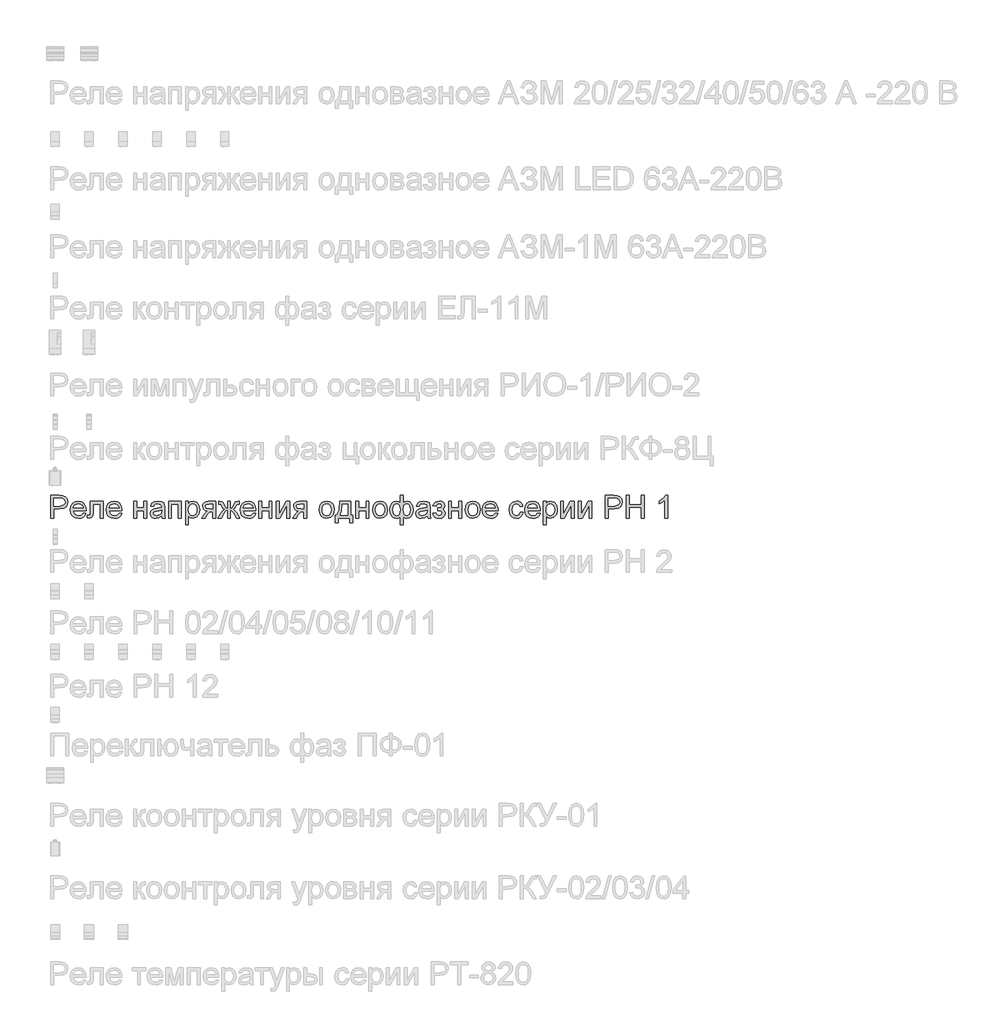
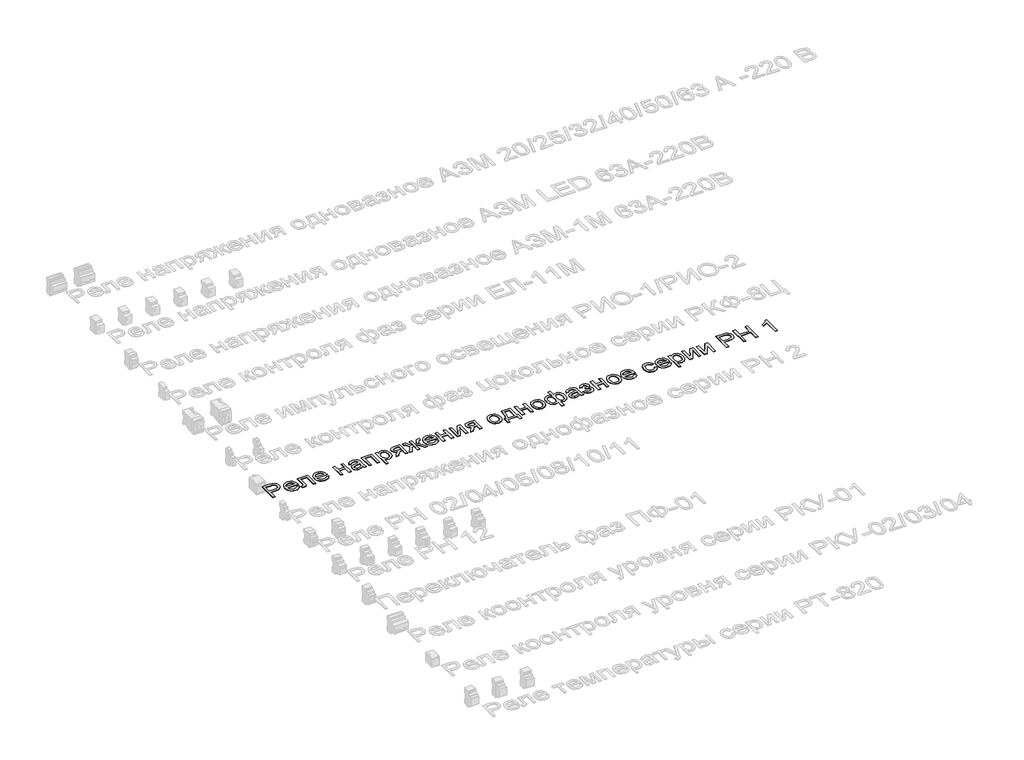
# One storey, part 10 of 34: 1 proxy.
"""IFC4 building model written with IfcOpenShell, lengths in millimetres."""

from ifc_helpers import new_model, si_unit, frame, origin, place, context, project, spatial, polyline, outline, extrude, element, save

model = new_model("IFC4")

# Units and contexts
model_context = context("Model", 3, world=origin())
ifc_project = project(units=[si_unit("LENGTHUNIT", "METRE", prefix="MILLI")], contexts=[model_context])

# Site, building, storey
site = spatial("IfcSite", under=ifc_project)
building = spatial("IfcBuilding", under=site)
storey = spatial("IfcBuildingStorey", under=building, Name="Этаж 01", Elevation=0.0)

# Proxy
placement = place(None, origin())
element("IfcBuildingElementProxy", 1, Name="Надпись на модели 1", ObjectType="Надпись на модели 1", at=placement, inside=storey, context=model_context, shape_type="SweptSolid", body=[
    extrude(outline(polyline([(-19039.0125911, 10446.235284), (-19039.0125911, 10546.6915941), (-19001.7829332, 10546.6915941), (-18986.7733478, 10545.735101), (-18974.5719283, 10541.0384742), (-18966.6624654, 10531.3263895), (-18963.6703585, 10517.6289165), (-18965.6906438, 10505.7892476), (-18971.7514996, 10495.9238788), (-18983.0853308, 10489.2652147), (-19000.9245418, 10487.04566), (-19026.4555523, 10487.04566), (-19026.4555523, 10446.235284), (-19039.0125911, 10446.235284)]), holes=[polyline([(-19026.4555523, 10499.6026988), (-19000.1887779, 10499.6026988), (-18981.6965762, 10504.2134864), (-18977.594692, 10509.7623732), (-18976.2273972, 10517.1874581), (-18979.4524961, 10527.5862559), (-18987.9260447, 10533.2761641), (-19000.4830834, 10534.1345554), (-19026.4555523, 10534.1345554), (-19026.4555523, 10499.6026988)])]), frame((0.0, 0.0, 40.0), z_axis=(0.0, 0.0, 1.0), x_axis=(1.0, 0.0, 0.0)), (0.0, 0.0, 1.0), 2.0),
    extrude(outline(polyline([(-18896.3234279, 10468.2101018), (-18884.0116438, 10466.640472), (-18888.4476875, 10457.3637143), (-18895.5263502, 10450.4291387), (-18905.0882164, 10446.1065253), (-18916.9738705, 10444.6656541), (-18931.7075445, 10447.1519233), (-18943.0444413, 10454.6107308), (-18950.2733225, 10466.5576985), (-18952.6829495, 10482.5084487), (-18950.248797, 10498.9956935), (-18942.9463394, 10511.3258717), (-18931.7627268, 10519.0146054), (-18917.6851091, 10521.5775166), (-18904.0458841, 10519.0207367), (-18893.14738, 10511.3503971), (-18886.0012722, 10499.0447444), (-18883.6192363, 10482.5820251), (-18883.6928127, 10479.1975108), (-18940.1259108, 10479.1975108), (-18937.9523413, 10469.7981258), (-18932.9031609, 10462.8880756), (-18925.6160317, 10458.6390386), (-18916.7286159, 10457.2226929), (-18904.4168318, 10459.8469178), (-18896.3234279, 10468.2101018)]), holes=[polyline([(-18940.1259108, 10491.7545495), (-18896.1762751, 10491.7545495), (-18901.2039957, 10503.1343659), (-18908.5248474, 10507.5489499), (-18917.73416, 10509.0204778), (-18933.1974665, 10504.323851), (-18938.0627059, 10498.8332123), (-18940.1259108, 10491.7545495)])]), frame((0.0, 0.0, 40.0), z_axis=(0.0, 0.0, 1.0), x_axis=(1.0, 0.0, 0.0)), (0.0, 0.0, 1.0), 2.0),
    extrude(outline(polyline([(-18864.7836782, 10520.0078868), (-18808.2770037, 10520.0078868), (-18808.2770037, 10446.3088604), (-18820.8340425, 10446.3088604), (-18820.8340425, 10507.450848), (-18852.2266394, 10507.450848), (-18852.2266394, 10472.2568038), (-18853.072768, 10456.0209451), (-18857.7203439, 10449.1660772), (-18868.7077528, 10446.235284), (-18878.9103468, 10446.8729461), (-18878.9103468, 10458.7923228), (-18873.294015, 10458.7923228), (-18867.6163695, 10459.564875), (-18865.3477639, 10462.0174216), (-18864.7836782, 10472.9680423), (-18864.7836782, 10520.0078868)])), frame((0.0, 0.0, 40.0), z_axis=(0.0, 0.0, 1.0), x_axis=(1.0, 0.0, 0.0)), (0.0, 0.0, 1.0), 2.0),
    extrude(outline(polyline([(-18737.7908134, 10468.2101018), (-18725.4790293, 10466.640472), (-18729.915073, 10457.3637143), (-18736.9937358, 10450.4291387), (-18746.555602, 10446.1065253), (-18758.4412561, 10444.6656541), (-18773.17493, 10447.1519233), (-18784.5118268, 10454.6107308), (-18791.740708, 10466.5576985), (-18794.1503351, 10482.5084487), (-18791.7161826, 10498.9956935), (-18784.4137249, 10511.3258717), (-18773.2301123, 10519.0146054), (-18759.1524946, 10521.5775166), (-18745.5132696, 10519.0207367), (-18734.6147655, 10511.3503971), (-18727.4686578, 10499.0447444), (-18725.0866219, 10482.5820251), (-18725.1601983, 10479.1975108), (-18781.5932963, 10479.1975108), (-18779.4197269, 10469.7981258), (-18774.3705465, 10462.8880756), (-18767.0834173, 10458.6390386), (-18758.1960014, 10457.2226929), (-18745.8842173, 10459.8469178), (-18737.7908134, 10468.2101018)]), holes=[polyline([(-18781.5932963, 10491.7545495), (-18737.6436606, 10491.7545495), (-18742.6713812, 10503.1343659), (-18749.9922329, 10507.5489499), (-18759.2015455, 10509.0204778), (-18774.6648521, 10504.323851), (-18779.5300915, 10498.8332123), (-18781.5932963, 10491.7545495)])]), frame((0.0, 0.0, 40.0), z_axis=(0.0, 0.0, 1.0), x_axis=(1.0, 0.0, 0.0)), (0.0, 0.0, 1.0), 2.0),
    extrude(outline(polyline([(-18673.2888369, 10520.0078868), (-18660.7317982, 10520.0078868), (-18660.7317982, 10491.7545495), (-18627.7695714, 10491.7545495), (-18627.7695714, 10520.0078868), (-18615.2125326, 10520.0078868), (-18615.2125326, 10446.235284), (-18627.7695714, 10446.235284), (-18627.7695714, 10479.1975108), (-18660.7317982, 10479.1975108), (-18660.7317982, 10446.235284), (-18673.2888369, 10446.235284), (-18673.2888369, 10520.0078868)])), frame((0.0, 0.0, 40.0), z_axis=(0.0, 0.0, 1.0), x_axis=(1.0, 0.0, 0.0)), (0.0, 0.0, 1.0), 2.0),
    extrude(outline(polyline([(-18549.2880791, 10455.6530631), (-18561.4649731, 10447.1427262), (-18574.9171914, 10444.6656541), (-18585.4110253, 10446.1555762), (-18593.1518757, 10450.6253425), (-18597.9251445, 10457.4127653), (-18599.5162342, 10465.8556571), (-18597.1127385, 10475.7884709), (-18590.7974309, 10482.998958), (-18582.0050512, 10487.1192364), (-18571.1402696, 10489.0076973), (-18549.3616555, 10493.3241794), (-18549.2880791, 10496.1200825), (-18552.7461699, 10505.3907088), (-18566.6275838, 10509.0204778), (-18579.3317754, 10506.6047194), (-18585.3895656, 10498.0330689), (-18597.9466043, 10499.6026988), (-18592.5142135, 10511.8654319), (-18581.5758555, 10519.0513936), (-18565.008903, 10521.5775166), (-18549.7908512, 10519.3456992), (-18541.1946752, 10513.7416301), (-18537.344177, 10505.2190306), (-18536.7310403, 10494.2316216), (-18536.7310403, 10478.6088996), (-18536.0933782, 10456.7934973), (-18533.5917806, 10446.235284), (-18546.1488194, 10446.235284), (-18549.2880791, 10455.6530631)]), holes=[polyline([(-18549.2880791, 10480.7671406), (-18569.5461143, 10476.9166424), (-18580.3495822, 10474.8810287), (-18585.2424128, 10471.5700907), (-18586.9591954, 10466.7385739), (-18583.2190618, 10459.9450197), (-18572.2439156, 10457.2226929), (-18559.539724, 10460.2270625), (-18551.3482183, 10467.4988633), (-18549.3616555, 10477.210948), (-18549.2880791, 10480.7671406)])]), frame((0.0, 0.0, 40.0), z_axis=(0.0, 0.0, 1.0), x_axis=(1.0, 0.0, 0.0)), (0.0, 0.0, 1.0), 2.0),
    extrude(outline(polyline([(-18519.465112, 10520.0078868), (-18462.9584376, 10520.0078868), (-18462.9584376, 10446.235284), (-18475.5154763, 10446.235284), (-18475.5154763, 10507.450848), (-18506.9080733, 10507.450848), (-18506.9080733, 10446.235284), (-18519.465112, 10446.235284), (-18519.465112, 10520.0078868)])), frame((0.0, 0.0, 40.0), z_axis=(0.0, 0.0, 1.0), x_axis=(1.0, 0.0, 0.0)), (0.0, 0.0, 1.0), 2.0),
    extrude(outline(polyline([(-18444.1228794, 10417.9819468), (-18444.1228794, 10520.0078868), (-18431.5658406, 10520.0078868), (-18431.5658406, 10507.6961027), (-18422.8838256, 10518.1071631), (-18411.1606526, 10521.5775166), (-18395.243625, 10516.7214743), (-18384.8448273, 10503.036264), (-18381.3376856, 10483.6856711), (-18385.2985484, 10463.3417968), (-18396.8009921, 10449.4849083), (-18412.6812316, 10444.6656541), (-18423.6073268, 10447.890753), (-18431.5658406, 10456.0454705), (-18431.5658406, 10417.9819468), (-18444.1228794, 10417.9819468)]), holes=[polyline([(-18431.5658406, 10482.5329742), (-18430.2077429, 10471.2757851), (-18426.1334498, 10463.4031104), (-18420.1216449, 10458.7677973), (-18412.9510117, 10457.2226929), (-18405.6638825, 10458.8229796), (-18399.4987934, 10463.6238396), (-18395.2957416, 10471.7846886), (-18393.8947243, 10483.4649419), (-18395.2620191, 10494.6608173), (-18399.3639033, 10502.6438566), (-18405.3665112, 10507.4263225), (-18412.4359769, 10509.0204778), (-18419.5330337, 10507.325155), (-18425.7655679, 10502.2391864), (-18430.1157724, 10493.9219876), (-18431.5658406, 10482.5329742)])]), frame((0.0, 0.0, 40.0), z_axis=(0.0, 0.0, 1.0), x_axis=(1.0, 0.0, 0.0)), (0.0, 0.0, 1.0), 2.0),
    extrude(outline(polyline([(-18310.7043425, 10520.0078868), (-18310.7043425, 10446.235284), (-18323.2613813, 10446.235284), (-18323.2613813, 10474.4886212), (-18330.1039864, 10474.4886212), (-18339.4236636, 10472.8944659), (-18348.1792551, 10462.1768371), (-18358.1856453, 10446.235284), (-18372.7047214, 10446.235284), (-18360.0986317, 10466.3952173), (-18349.4055284, 10476.843066), (-18357.9894416, 10479.4734223), (-18364.0227063, 10484.470486), (-18368.7806468, 10498.6952565), (-18367.1558347, 10507.2914325), (-18362.2813982, 10514.0972494), (-18354.3290158, 10518.5302274), (-18343.4703655, 10520.0078868), (-18310.7043425, 10520.0078868)]), holes=[polyline([(-18323.2613813, 10507.450848), (-18339.816071, 10507.450848), (-18353.2192384, 10504.5445802), (-18356.223608, 10497.7387633), (-18351.7967614, 10489.6330967), (-18336.1127256, 10487.04566), (-18323.2613813, 10487.04566), (-18323.2613813, 10507.450848)])]), frame((0.0, 0.0, 40.0), z_axis=(0.0, 0.0, 1.0), x_axis=(1.0, 0.0, 0.0)), (0.0, 0.0, 1.0), 2.0),
    extrude(outline(polyline([(-18246.3495188, 10520.0078868), (-18246.3495188, 10488.6152898), (-18239.0286671, 10491.2027265), (-18232.1002229, 10504.6304194), (-18223.8351407, 10517.5062892), (-18212.0874423, 10520.0078868), (-18207.1087727, 10520.0078868), (-18207.1087727, 10507.3772716), (-18210.5668634, 10507.450848), (-18217.0415865, 10506.1509983), (-18221.5297469, 10498.0085434), (-18226.7414085, 10489.0812737), (-18234.1848875, 10484.5440624), (-18225.9749876, 10479.6573633), (-18217.9735542, 10469.3627988), (-18203.969513, 10446.235284), (-18218.3659617, 10446.235284), (-18232.1492738, 10469.0439677), (-18239.1758199, 10478.5230604), (-18246.3495188, 10480.7671406), (-18246.3495188, 10446.235284), (-18258.9065576, 10446.235284), (-18258.9065576, 10480.7671406), (-18266.055731, 10478.5721114), (-18273.1313281, 10469.0930186), (-18286.9146401, 10446.235284), (-18301.2865634, 10446.235284), (-18287.3315731, 10469.3627988), (-18279.268826, 10479.6573633), (-18271.0221379, 10484.5440624), (-18278.9193381, 10489.5472576), (-18285.6883668, 10502.4231274), (-18288.9993048, 10506.6660331), (-18294.4194328, 10507.5244244), (-18298.1473037, 10507.450848), (-18298.1473037, 10520.0078868), (-18296.2588428, 10520.0078868), (-18285.2469084, 10519.2230718), (-18279.5324748, 10515.8876084), (-18273.1313281, 10504.6304194), (-18266.2764602, 10491.2885657), (-18258.9065576, 10488.6152898), (-18258.9065576, 10520.0078868), (-18246.3495188, 10520.0078868)])), frame((0.0, 0.0, 40.0), z_axis=(0.0, 0.0, 1.0), x_axis=(1.0, 0.0, 0.0)), (0.0, 0.0, 1.0), 2.0),
    extrude(outline(polyline([(-18146.0403615, 10468.2101018), (-18133.7285773, 10466.640472), (-18138.1646211, 10457.3637143), (-18145.2432838, 10450.4291387), (-18154.80515, 10446.1065253), (-18166.6908041, 10444.6656541), (-18181.424478, 10447.1519233), (-18192.7613748, 10454.6107308), (-18199.990256, 10466.5576985), (-18202.3998831, 10482.5084487), (-18199.9657306, 10498.9956935), (-18192.663273, 10511.3258717), (-18181.4796603, 10519.0146054), (-18167.4020426, 10521.5775166), (-18153.7628177, 10519.0207367), (-18142.8643136, 10511.3503971), (-18135.7182058, 10499.0447444), (-18133.3361699, 10482.5820251), (-18133.4097463, 10479.1975108), (-18189.8428443, 10479.1975108), (-18187.6692749, 10469.7981258), (-18182.6200945, 10462.8880756), (-18175.3329653, 10458.6390386), (-18166.4455495, 10457.2226929), (-18154.1337653, 10459.8469178), (-18146.0403615, 10468.2101018)]), holes=[polyline([(-18189.8428443, 10491.7545495), (-18145.8932087, 10491.7545495), (-18150.9209293, 10503.1343659), (-18158.241781, 10507.5489499), (-18167.4510936, 10509.0204778), (-18182.9144001, 10504.323851), (-18187.7796395, 10498.8332123), (-18189.8428443, 10491.7545495)])]), frame((0.0, 0.0, 40.0), z_axis=(0.0, 0.0, 1.0), x_axis=(1.0, 0.0, 0.0)), (0.0, 0.0, 1.0), 2.0),
    extrude(outline(polyline([(-18120.7791311, 10520.0078868), (-18108.2220923, 10520.0078868), (-18108.2220923, 10491.7545495), (-18075.2598656, 10491.7545495), (-18075.2598656, 10520.0078868), (-18062.7028268, 10520.0078868), (-18062.7028268, 10446.235284), (-18075.2598656, 10446.235284), (-18075.2598656, 10479.1975108), (-18108.2220923, 10479.1975108), (-18108.2220923, 10446.235284), (-18120.7791311, 10446.235284), (-18120.7791311, 10520.0078868)])), frame((0.0, 0.0, 40.0), z_axis=(0.0, 0.0, 1.0), x_axis=(1.0, 0.0, 0.0)), (0.0, 0.0, 1.0), 2.0),
    extrude(outline(polyline([(-18043.8672687, 10520.0078868), (-18031.3102299, 10520.0078868), (-18031.3102299, 10463.746467), (-18000.4571932, 10520.0078868), (-17984.2213345, 10520.0078868), (-17984.2213345, 10446.235284), (-17996.7783733, 10446.235284), (-17996.7783733, 10502.1533473), (-18027.4352062, 10446.235284), (-18043.8672687, 10446.235284), (-18043.8672687, 10520.0078868)])), frame((0.0, 0.0, 40.0), z_axis=(0.0, 0.0, 1.0), x_axis=(1.0, 0.0, 0.0)), (0.0, 0.0, 1.0), 2.0),
    extrude(outline(polyline([(-17908.8791019, 10520.0078868), (-17908.8791019, 10446.235284), (-17921.4361407, 10446.235284), (-17921.4361407, 10474.4886212), (-17928.2787458, 10474.4886212), (-17937.598423, 10472.8944659), (-17946.3540145, 10462.1768371), (-17956.3604047, 10446.235284), (-17970.8794808, 10446.235284), (-17958.2733911, 10466.3952173), (-17947.5802878, 10476.843066), (-17956.164201, 10479.4734223), (-17962.1974657, 10484.470486), (-17966.9554062, 10498.6952565), (-17965.3305941, 10507.2914325), (-17960.4561576, 10514.0972494), (-17952.5037752, 10518.5302274), (-17941.6451249, 10520.0078868), (-17908.8791019, 10520.0078868)]), holes=[polyline([(-17921.4361407, 10507.450848), (-17937.9908304, 10507.450848), (-17951.3939978, 10504.5445802), (-17954.3983674, 10497.7387633), (-17949.9715208, 10489.6330967), (-17934.287485, 10487.04566), (-17921.4361407, 10487.04566), (-17921.4361407, 10507.450848)])]), frame((0.0, 0.0, 40.0), z_axis=(0.0, 0.0, 1.0), x_axis=(1.0, 0.0, 0.0)), (0.0, 0.0, 1.0), 2.0),
    extrude(outline(polyline([(-17853.9420573, 10483.1215854), (-17851.2258619, 10500.9086798), (-17843.0772757, 10513.4105363), (-17833.0095718, 10519.5357715), (-17820.955305, 10521.5775166), (-17807.7636698, 10519.0912475), (-17797.2269164, 10511.63244), (-17790.3199319, 10499.7897054), (-17788.0176037, 10484.151655), (-17792.0888312, 10461.8089551), (-17803.9468941, 10449.1660772), (-17820.955305, 10444.6656541), (-17834.3063558, 10447.1427262), (-17844.8308465, 10454.5739426), (-17851.6642546, 10466.6649975), (-17853.9420573, 10483.1215854)]), holes=[polyline([(-17841.3850185, 10483.1461108), (-17839.9318846, 10471.7816229), (-17835.572483, 10463.6851533), (-17829.0119207, 10458.838308), (-17820.955305, 10457.2226929), (-17812.9354776, 10458.8475051), (-17806.387178, 10463.7219415), (-17802.0277764, 10471.92571), (-17800.5746425, 10483.5385183), (-17802.0369734, 10494.5719125), (-17806.4239662, 10502.5580175), (-17812.9814628, 10507.4048627), (-17820.955305, 10509.0204778), (-17829.0119207, 10507.4109941), (-17835.572483, 10502.5825429), (-17839.9318846, 10494.5044674), (-17841.3850185, 10483.1461108)])]), frame((0.0, 0.0, 40.0), z_axis=(0.0, 0.0, 1.0), x_axis=(1.0, 0.0, 0.0)), (0.0, 0.0, 1.0), 2.0),
    extrude(outline(polyline([(-17762.9035262, 10520.0078868), (-17715.8146308, 10520.0078868), (-17715.8146308, 10458.7923228), (-17706.3968517, 10458.7923228), (-17706.3968517, 10425.830096), (-17718.9538905, 10425.830096), (-17718.9538905, 10446.235284), (-17770.7516754, 10446.235284), (-17770.7516754, 10425.830096), (-17783.3087142, 10425.830096), (-17783.3087142, 10458.7923228), (-17775.460565, 10458.7923228), (-17765.760743, 10482.7414406), (-17762.9035262, 10520.0078868)]), holes=[polyline([(-17751.9161173, 10507.450848), (-17754.8591732, 10478.8418915), (-17761.3338964, 10458.7923228), (-17728.3716696, 10458.7923228), (-17728.3716696, 10507.450848), (-17751.9161173, 10507.450848)])]), frame((0.0, 0.0, 40.0), z_axis=(0.0, 0.0, 1.0), x_axis=(1.0, 0.0, 0.0)), (0.0, 0.0, 1.0), 2.0),
    extrude(outline(polyline([(-17692.2701831, 10520.0078868), (-17679.7131444, 10520.0078868), (-17679.7131444, 10491.7545495), (-17646.7509176, 10491.7545495), (-17646.7509176, 10520.0078868), (-17634.1938788, 10520.0078868), (-17634.1938788, 10446.235284), (-17646.7509176, 10446.235284), (-17646.7509176, 10479.1975108), (-17679.7131444, 10479.1975108), (-17679.7131444, 10446.235284), (-17692.2701831, 10446.235284), (-17692.2701831, 10520.0078868)])), frame((0.0, 0.0, 40.0), z_axis=(0.0, 0.0, 1.0), x_axis=(1.0, 0.0, 0.0)), (0.0, 0.0, 1.0), 2.0),
    extrude(outline(polyline([(-17618.4975804, 10483.1215854), (-17615.781385, 10500.9086798), (-17607.6327988, 10513.4105363), (-17597.5650948, 10519.5357715), (-17585.5108281, 10521.5775166), (-17572.3191929, 10519.0912475), (-17561.7824394, 10511.63244), (-17554.875455, 10499.7897054), (-17552.5731268, 10484.151655), (-17556.6443542, 10461.8089551), (-17568.5024172, 10449.1660772), (-17585.5108281, 10444.6656541), (-17598.8618789, 10447.1427262), (-17609.3863696, 10454.5739426), (-17616.2197777, 10466.6649975), (-17618.4975804, 10483.1215854)]), holes=[polyline([(-17605.9405416, 10483.1461108), (-17604.4874077, 10471.7816229), (-17600.1280061, 10463.6851533), (-17593.5674438, 10458.838308), (-17585.5108281, 10457.2226929), (-17577.4910006, 10458.8475051), (-17570.9427011, 10463.7219415), (-17566.5832995, 10471.92571), (-17565.1301656, 10483.5385183), (-17566.5924965, 10494.5719125), (-17570.9794893, 10502.5580175), (-17577.5369859, 10507.4048627), (-17585.5108281, 10509.0204778), (-17593.5674438, 10507.4109941), (-17600.1280061, 10502.5825429), (-17604.4874077, 10494.5044674), (-17605.9405416, 10483.1461108)])]), frame((0.0, 0.0, 40.0), z_axis=(0.0, 0.0, 1.0), x_axis=(1.0, 0.0, 0.0)), (0.0, 0.0, 1.0), 2.0),
    extrude(outline(polyline([(-17496.0664524, 10546.6915941), (-17483.5094136, 10546.6915941), (-17483.5094136, 10512.920027), (-17475.5263743, 10519.4315383), (-17466.1699089, 10521.5775166), (-17455.1794343, 10518.8490585), (-17446.7334768, 10510.6636841), (-17441.3532026, 10498.3396372), (-17439.5597779, 10483.1951618), (-17441.4911584, 10467.5877681), (-17447.2852998, 10455.2974438), (-17455.9489208, 10447.3236016), (-17466.48874, 10444.6656541), (-17474.1652109, 10445.8919275), (-17483.5094136, 10452.5873798), (-17483.5094136, 10417.9819468), (-17496.0664524, 10417.9819468), (-17496.0664524, 10452.5873798), (-17504.0862799, 10446.6522169), (-17513.5776353, 10444.6656541), (-17524.0990604, 10447.2040399), (-17533.1980084, 10454.8191972), (-17539.4887905, 10467.1616382), (-17541.5857179, 10483.8818748), (-17539.68806, 10498.603286), (-17533.9950861, 10510.7372605), (-17525.0954075, 10518.8674526), (-17513.5776353, 10521.5775166), (-17503.8532879, 10519.4315383), (-17496.0664524, 10512.920027), (-17496.0664524, 10546.6915941)]), holes=[polyline([(-17483.58299, 10482.9008562), (-17479.401398, 10462.45888), (-17468.9167611, 10457.2226929), (-17462.4634978, 10458.8321766), (-17457.0341727, 10463.6606278), (-17453.3461557, 10471.8797247), (-17452.1168167, 10483.6611456), (-17456.654028, 10502.7419585), (-17461.8350327, 10507.450848), (-17468.3036245, 10509.0204778), (-17474.9653543, 10507.3864686), (-17479.7447545, 10502.4844411), (-17483.58299, 10482.9008562)]), polyline([(-17529.0286791, 10484.151655), (-17527.771749, 10471.8337395), (-17524.0009585, 10463.5257378), (-17518.3662326, 10458.7984541), (-17511.5174962, 10457.2226929), (-17504.7024822, 10458.7892571), (-17499.8556369, 10463.4889496), (-17495.992876, 10482.2877195), (-17500.0518407, 10502.3372883), (-17505.1439406, 10507.3496804), (-17512.3023111, 10509.0204778), (-17519.0222889, 10507.3895343), (-17524.3688405, 10502.4967038), (-17529.0286791, 10484.151655)])]), frame((0.0, 0.0, 40.0), z_axis=(0.0, 0.0, 1.0), x_axis=(1.0, 0.0, 0.0)), (0.0, 0.0, 1.0), 2.0),
    extrude(outline(polyline([(-17376.7745841, 10455.6530631), (-17388.9514781, 10447.1427262), (-17402.4036964, 10444.6656541), (-17412.8975303, 10446.1555762), (-17420.6383806, 10450.6253425), (-17425.4116495, 10457.4127653), (-17427.0027391, 10465.8556571), (-17424.5992434, 10475.7884709), (-17418.2839359, 10482.998958), (-17409.4915562, 10487.1192364), (-17398.6267746, 10489.0076973), (-17376.8481605, 10493.3241794), (-17376.7745841, 10496.1200825), (-17380.2326748, 10505.3907088), (-17394.1140888, 10509.0204778), (-17406.8182803, 10506.6047194), (-17412.8760705, 10498.0330689), (-17425.4331093, 10499.6026988), (-17420.0007185, 10511.8654319), (-17409.0623605, 10519.0513936), (-17392.495408, 10521.5775166), (-17377.2773561, 10519.3456992), (-17368.6811802, 10513.7416301), (-17364.830682, 10505.2190306), (-17364.2175453, 10494.2316216), (-17364.2175453, 10478.6088996), (-17363.5798832, 10456.7934973), (-17361.0782856, 10446.235284), (-17373.6353244, 10446.235284), (-17376.7745841, 10455.6530631)]), holes=[polyline([(-17376.7745841, 10480.7671406), (-17397.0326193, 10476.9166424), (-17407.8360872, 10474.8810287), (-17412.7289177, 10471.5700907), (-17414.4457004, 10466.7385739), (-17410.7055668, 10459.9450197), (-17399.7304206, 10457.2226929), (-17387.026229, 10460.2270625), (-17378.8347232, 10467.4988633), (-17376.8481605, 10477.210948), (-17376.7745841, 10480.7671406)])]), frame((0.0, 0.0, 40.0), z_axis=(0.0, 0.0, 1.0), x_axis=(1.0, 0.0, 0.0)), (0.0, 0.0, 1.0), 2.0),
    extrude(outline(polyline([(-17329.6856887, 10479.1975108), (-17329.6856887, 10491.7545495), (-17319.7774003, 10492.2450589), (-17314.7742052, 10494.857021), (-17312.4197604, 10500.3139373), (-17315.5712828, 10506.6537703), (-17323.7014749, 10509.0204778), (-17332.1014471, 10506.6660331), (-17337.5338379, 10499.6026988), (-17351.6605065, 10501.1723286), (-17342.218202, 10516.4762196), (-17324.9767991, 10521.5775166), (-17314.4798996, 10520.0232152), (-17306.5336485, 10515.3603109), (-17301.5304533, 10508.5391656), (-17299.8627216, 10500.510141), (-17302.2355605, 10492.7110427), (-17309.3540771, 10486.677778), (-17301.0522067, 10478.8541542), (-17298.2930918, 10467.5969652), (-17300.0435969, 10458.3539301), (-17305.2951124, 10451.0300127), (-17313.6920189, 10446.2567438), (-17324.8786973, 10444.6656541), (-17335.820121, 10446.1371821), (-17344.192502, 10450.5517661), (-17349.9958405, 10457.909406), (-17353.2301364, 10468.2101018), (-17339.1034678, 10469.7797317), (-17333.438085, 10460.5091054), (-17323.6769494, 10457.2226929), (-17314.504425, 10460.3742153), (-17310.8501305, 10468.430831), (-17313.1187362, 10475.0281815), (-17317.950253, 10478.5598486), (-17327.2331421, 10479.2710872), (-17329.6856887, 10479.1975108)])), frame((0.0, 0.0, 40.0), z_axis=(0.0, 0.0, 1.0), x_axis=(1.0, 0.0, 0.0)), (0.0, 0.0, 1.0), 2.0),
    extrude(outline(polyline([(-17282.5967933, 10520.0078868), (-17270.0397545, 10520.0078868), (-17270.0397545, 10491.7545495), (-17237.0775278, 10491.7545495), (-17237.0775278, 10520.0078868), (-17224.520489, 10520.0078868), (-17224.520489, 10446.235284), (-17237.0775278, 10446.235284), (-17237.0775278, 10479.1975108), (-17270.0397545, 10479.1975108), (-17270.0397545, 10446.235284), (-17282.5967933, 10446.235284), (-17282.5967933, 10520.0078868)])), frame((0.0, 0.0, 40.0), z_axis=(0.0, 0.0, 1.0), x_axis=(1.0, 0.0, 0.0)), (0.0, 0.0, 1.0), 2.0),
    extrude(outline(polyline([(-17208.8241905, 10483.1215854), (-17206.1079951, 10500.9086798), (-17197.9594089, 10513.4105363), (-17187.891705, 10519.5357715), (-17175.8374383, 10521.5775166), (-17162.6458031, 10519.0912475), (-17152.1090496, 10511.63244), (-17145.2020652, 10499.7897054), (-17142.899737, 10484.151655), (-17146.9709644, 10461.8089551), (-17158.8290274, 10449.1660772), (-17175.8374383, 10444.6656541), (-17189.188489, 10447.1427262), (-17199.7129798, 10454.5739426), (-17206.5463879, 10466.6649975), (-17208.8241905, 10483.1215854)]), holes=[polyline([(-17196.2671518, 10483.1461108), (-17194.8140179, 10471.7816229), (-17190.4546162, 10463.6851533), (-17183.894054, 10458.838308), (-17175.8374383, 10457.2226929), (-17167.8176108, 10458.8475051), (-17161.2693113, 10463.7219415), (-17156.9099097, 10471.92571), (-17155.4567758, 10483.5385183), (-17156.9191067, 10494.5719125), (-17161.3060995, 10502.5580175), (-17167.8635961, 10507.4048627), (-17175.8374383, 10509.0204778), (-17183.894054, 10507.4109941), (-17190.4546162, 10502.5825429), (-17194.8140179, 10494.5044674), (-17196.2671518, 10483.1461108)])]), frame((0.0, 0.0, 40.0), z_axis=(0.0, 0.0, 1.0), x_axis=(1.0, 0.0, 0.0)), (0.0, 0.0, 1.0), 2.0),
    extrude(outline(polyline([(-17077.1224363, 10468.2101018), (-17064.8106522, 10466.640472), (-17069.2466959, 10457.3637143), (-17076.3253586, 10450.4291387), (-17085.8872248, 10446.1065253), (-17097.7728789, 10444.6656541), (-17112.5065528, 10447.1519233), (-17123.8434497, 10454.6107308), (-17131.0723309, 10466.5576985), (-17133.4819579, 10482.5084487), (-17131.0478054, 10498.9956935), (-17123.7453478, 10511.3258717), (-17112.5617351, 10519.0146054), (-17098.4841175, 10521.5775166), (-17084.8448925, 10519.0207367), (-17073.9463884, 10511.3503971), (-17066.8002806, 10499.0447444), (-17064.4182447, 10482.5820251), (-17064.4918211, 10479.1975108), (-17120.9249192, 10479.1975108), (-17118.7513497, 10469.7981258), (-17113.7021693, 10462.8880756), (-17106.4150401, 10458.6390386), (-17097.5276243, 10457.2226929), (-17085.2158402, 10459.8469178), (-17077.1224363, 10468.2101018)]), holes=[polyline([(-17120.9249192, 10491.7545495), (-17076.9752835, 10491.7545495), (-17082.0030041, 10503.1343659), (-17089.3238558, 10507.5489499), (-17098.5331684, 10509.0204778), (-17113.9964749, 10504.323851), (-17118.8617143, 10498.8332123), (-17120.9249192, 10491.7545495)])]), frame((0.0, 0.0, 40.0), z_axis=(0.0, 0.0, 1.0), x_axis=(1.0, 0.0, 0.0)), (0.0, 0.0, 1.0), 2.0),
    extrude(outline(polyline([(-16965.5315644, 10472.9189914), (-16952.9745256, 10471.3493615), (-16956.4755359, 10460.1810773), (-16963.0544923, 10451.7412512), (-16972.0921266, 10446.4345534), (-16982.969171, 10444.6656541), (-16996.3263531, 10447.1335292), (-17006.7711361, 10454.5371544), (-17013.5125736, 10466.5515672), (-17015.7597195, 10482.8518052), (-17011.921484, 10503.7107144), (-17000.2228365, 10517.1138817), (-16983.1408492, 10521.5775166), (-16972.5305194, 10520.044675), (-16964.0477737, 10515.44615), (-16957.9623923, 10508.0271964), (-16954.5441555, 10498.0330689), (-16967.1011942, 10496.4634391), (-16972.9259925, 10505.8689554), (-16983.0427474, 10509.0204778), (-16991.157611, 10507.4692421), (-16997.5986116, 10502.8155349), (-17001.8016634, 10494.8079701), (-17003.2026807, 10483.1951618), (-17001.8323203, 10471.4260036), (-16997.721239, 10463.3908477), (-16991.3967343, 10458.7647316), (-16983.3861039, 10457.2226929), (-16971.5525664, 10461.0731911), (-16965.5315644, 10472.9189914)])), frame((0.0, 0.0, 40.0), z_axis=(0.0, 0.0, 1.0), x_axis=(1.0, 0.0, 0.0)), (0.0, 0.0, 1.0), 2.0),
    extrude(outline(polyline([(-16890.3364846, 10468.2101018), (-16878.0247005, 10466.640472), (-16882.4607442, 10457.3637143), (-16889.5394069, 10450.4291387), (-16899.1012731, 10446.1065253), (-16910.9869272, 10444.6656541), (-16925.7206012, 10447.1519233), (-16937.057498, 10454.6107308), (-16944.2863792, 10466.5576985), (-16946.6960062, 10482.5084487), (-16944.2618537, 10498.9956935), (-16936.9593961, 10511.3258717), (-16925.7757835, 10519.0146054), (-16911.6981658, 10521.5775166), (-16898.0589408, 10519.0207367), (-16887.1604367, 10511.3503971), (-16880.0143289, 10499.0447444), (-16877.632293, 10482.5820251), (-16877.7058694, 10479.1975108), (-16934.1389675, 10479.1975108), (-16931.965398, 10469.7981258), (-16926.9162176, 10462.8880756), (-16919.6290884, 10458.6390386), (-16910.7416726, 10457.2226929), (-16898.4298885, 10459.8469178), (-16890.3364846, 10468.2101018)]), holes=[polyline([(-16934.1389675, 10491.7545495), (-16890.1893318, 10491.7545495), (-16895.2170524, 10503.1343659), (-16902.5379041, 10507.5489499), (-16911.7472167, 10509.0204778), (-16927.2105232, 10504.323851), (-16932.0757626, 10498.8332123), (-16934.1389675, 10491.7545495)])]), frame((0.0, 0.0, 40.0), z_axis=(0.0, 0.0, 1.0), x_axis=(1.0, 0.0, 0.0)), (0.0, 0.0, 1.0), 2.0),
    extrude(outline(polyline([(-16865.0752542, 10417.9819468), (-16865.0752542, 10520.0078868), (-16852.5182155, 10520.0078868), (-16852.5182155, 10507.6961027), (-16843.8362004, 10518.1071631), (-16832.1130275, 10521.5775166), (-16816.1959998, 10516.7214743), (-16805.7972021, 10503.036264), (-16802.2900604, 10483.6856711), (-16806.2509232, 10463.3417968), (-16817.7533669, 10449.4849083), (-16833.6336064, 10444.6656541), (-16844.5597016, 10447.890753), (-16852.5182155, 10456.0454705), (-16852.5182155, 10417.9819468), (-16865.0752542, 10417.9819468)]), holes=[polyline([(-16852.5182155, 10482.5329742), (-16851.1601178, 10471.2757851), (-16847.0858247, 10463.4031104), (-16841.0740197, 10458.7677973), (-16833.9033865, 10457.2226929), (-16826.6162573, 10458.8229796), (-16820.4511682, 10463.6238396), (-16816.2481164, 10471.7846886), (-16814.8470992, 10483.4649419), (-16816.2143939, 10494.6608173), (-16820.3162782, 10502.6438566), (-16826.3188861, 10507.4263225), (-16833.3883517, 10509.0204778), (-16840.4854086, 10507.325155), (-16846.7179427, 10502.2391864), (-16851.0681473, 10493.9219876), (-16852.5182155, 10482.5329742)])]), frame((0.0, 0.0, 40.0), z_axis=(0.0, 0.0, 1.0), x_axis=(1.0, 0.0, 0.0)), (0.0, 0.0, 1.0), 2.0),
    extrude(outline(polyline([(-16788.1633918, 10520.0078868), (-16775.606353, 10520.0078868), (-16775.606353, 10463.746467), (-16744.7533164, 10520.0078868), (-16728.5174576, 10520.0078868), (-16728.5174576, 10446.235284), (-16741.0744964, 10446.235284), (-16741.0744964, 10502.1533473), (-16771.7313293, 10446.235284), (-16788.1633918, 10446.235284), (-16788.1633918, 10520.0078868)])), frame((0.0, 0.0, 40.0), z_axis=(0.0, 0.0, 1.0), x_axis=(1.0, 0.0, 0.0)), (0.0, 0.0, 1.0), 2.0),
    extrude(outline(polyline([(-16709.6818995, 10520.0078868), (-16697.1248607, 10520.0078868), (-16697.1248607, 10463.746467), (-16666.2718241, 10520.0078868), (-16650.0359653, 10520.0078868), (-16650.0359653, 10446.235284), (-16662.5930041, 10446.235284), (-16662.5930041, 10502.1533473), (-16693.249837, 10446.235284), (-16709.6818995, 10446.235284), (-16709.6818995, 10520.0078868)])), frame((0.0, 0.0, 40.0), z_axis=(0.0, 0.0, 1.0), x_axis=(1.0, 0.0, 0.0)), (0.0, 0.0, 1.0), 2.0),
    extrude(outline(polyline([(-16590.3900312, 10446.235284), (-16590.3900312, 10546.6915941), (-16553.1603733, 10546.6915941), (-16538.1507879, 10545.735101), (-16525.9493684, 10541.0384742), (-16518.0399055, 10531.3263895), (-16515.0477986, 10517.6289165), (-16517.0680839, 10505.7892476), (-16523.1289397, 10495.9238788), (-16534.4627709, 10489.2652147), (-16552.3019819, 10487.04566), (-16577.8329924, 10487.04566), (-16577.8329924, 10446.235284), (-16590.3900312, 10446.235284)]), holes=[polyline([(-16577.8329924, 10499.6026988), (-16551.566218, 10499.6026988), (-16533.0740163, 10504.2134864), (-16528.9721321, 10509.7623732), (-16527.6048373, 10517.1874581), (-16530.8299362, 10527.5862559), (-16539.3034848, 10533.2761641), (-16551.8605236, 10534.1345554), (-16577.8329924, 10534.1345554), (-16577.8329924, 10499.6026988)])]), frame((0.0, 0.0, 40.0), z_axis=(0.0, 0.0, 1.0), x_axis=(1.0, 0.0, 0.0)), (0.0, 0.0, 1.0), 2.0),
    extrude(outline(polyline([(-16497.7818703, 10446.235284), (-16497.7818703, 10546.6915941), (-16485.2248315, 10546.6915941), (-16485.2248315, 10505.8812181), (-16431.8574167, 10505.8812181), (-16431.8574167, 10546.6915941), (-16419.300378, 10546.6915941), (-16419.300378, 10446.235284), (-16431.8574167, 10446.235284), (-16431.8574167, 10493.3241794), (-16485.2248315, 10493.3241794), (-16485.2248315, 10446.235284), (-16497.7818703, 10446.235284)])), frame((0.0, 0.0, 40.0), z_axis=(0.0, 0.0, 1.0), x_axis=(1.0, 0.0, 0.0)), (0.0, 0.0, 1.0), 2.0),
    extrude(outline(polyline([(-16315.7048081, 10446.235284), (-16328.2618469, 10446.235284), (-16328.2618469, 10524.5205726), (-16340.1566981, 10516.0470239), (-16353.3759244, 10509.7071909), (-16353.3759244, 10521.5775166), (-16334.9695619, 10533.325215), (-16323.798212, 10546.6915941), (-16315.7048081, 10546.6915941), (-16315.7048081, 10446.235284)])), frame((0.0, 0.0, 40.0), z_axis=(0.0, 0.0, 1.0), x_axis=(1.0, 0.0, 0.0)), (0.0, 0.0, 1.0), 2.0),
])

save(model, "model.ifc")
